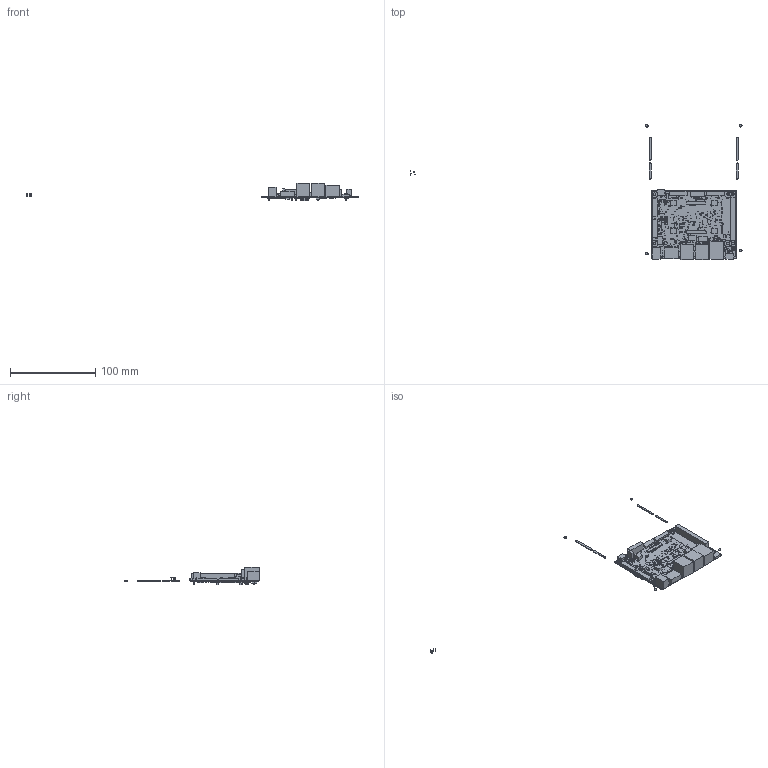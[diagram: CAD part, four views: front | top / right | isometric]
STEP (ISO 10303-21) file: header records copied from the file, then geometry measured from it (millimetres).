
FILE_DESCRIPTION(/* description */ ('PCB Design'),/* implementation_level */ '2;1');
FILE_NAME(/* name */ 'X3_SOM_Inter1_1_pcb-172',/* time_stamp */ '2023-06-07T15:31:05+08:00',/* author */ ('Administrator'),/* organization */ (''),/* preprocessor_version */ 'ST-DEVELOPER v16',/* originating_system */ 'allegro_17.2S058',/* authorisation */ '');
FILE_SCHEMA (('AUTOMOTIVE_DESIGN { 1 0 10303 214 3 1 1 }'));
Products named in the file (61): X3_SOM_INTER1_1_PCB-172; BOARD_OUTLINE; COMPONENTS; HEADER_2_54_2X20P; C1_25_2P_H; HDMI; DC-470-2-1GP; DO-214AB; AFA01-S15FCA-00_FPC15P; L303015; SOT23-5; MECH_RECT_01000X00790_HOLES_C; CON_3P_2_54; 2_54_1X2P; TEST_S0_5; HC911130A-M893-A; MECH_RECT_01000X00790; SOD-123; SMD0504; 3225; TSOT23-6; SO8_150; A2541WV-2X8P; USB-303WSD-BRY_TYPE-A; VL822_QFN-76; FPC05_24P; AP3407; 3215; R0201; CON_4P_2_54; SOIC8; 8-MSOP; SOP-8; DF40C-100DS-0_4B; DF40C-100DS-0_4A; TF9P1_0B14_5X14_7; TSSOP20-0R65-6R5X6R4; LSQ976; FIDUCIAL2; UMLP-10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
Assembly tree (387 placements, depth 3):
  X3_SOM_INTER1_1_PCB-172
    BOARD_OUTLINE
    COMPONENTS
      HEADER_2_54_2X20P
      C1_25_2P_H
      HDMI
      DC-470-2-1GP
      DO-214AB
      AFA01-S15FCA-00_FPC15P  x3
      L303015  x3
      SOT23-5  x5
      MECH_RECT_01000X00790_HOLES_C
      CON_3P_2_54
      2_54_1X2P
      TEST_S0_5  x2
      HC911130A-M893-A
      MECH_RECT_01000X00790
      SOD-123
      SMD0504  x3
      3225
      TSOT23-6  x3
      SO8_150
      A2541WV-2X8P
      USB-303WSD-BRY_TYPE-A  x2
      VL822_QFN-76
      FPC05_24P
      AP3407
      3215
      R0201  x3
      CON_4P_2_54
      SOIC8
      8-MSOP
      SOP-8
      DF40C-100DS-0_4B
      DF40C-100DS-0_4A
      TF9P1_0B14_5X14_7
      TSSOP20-0R65-6R5X6R4  x2
      LSQ976  x5
      FIDUCIAL2  x3
      UMLP-10
      RCLAMP0524P  x2
      L0603
      F1206
      TVS0402  x10
      DFN1006-2L  x5
      DFN10L  x10
      C0805
      R0603  x10
      C0603  x35
      MH6_2C4_0_P  x4
      TESTPAD_S1_00  x3
      SOT23  x8
      R0402  x145
      CONN_ZX62D_B_5PA8_30  x2
      C0402  x78
      C_TAN3528  x5
      VIA10-D35-4
      VIA10-D35-3
      VIA10-D35-2
      VIA10-D35-1
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Bounding box: 389.02 x 158.21 x 20.03 mm (x, y, z)
Surface area: 36783.5 mm2 (no closed solid volume)
Topology: 0 solids, 551 shells, 4280 faces, 13012 edges, 8096 vertices
Faces by surface type: cylinder 2434, plane 1846
Entity records: 107722 total; most frequent: ORIENTED_EDGE 16376, CARTESIAN_POINT 15678, EDGE_CURVE 9457, AXIS2_PLACEMENT_3D 8524, VERTEX_POINT 7996, DIRECTION 5662, FACE_OUTER_BOUND 5260, EDGE_LOOP 5260
